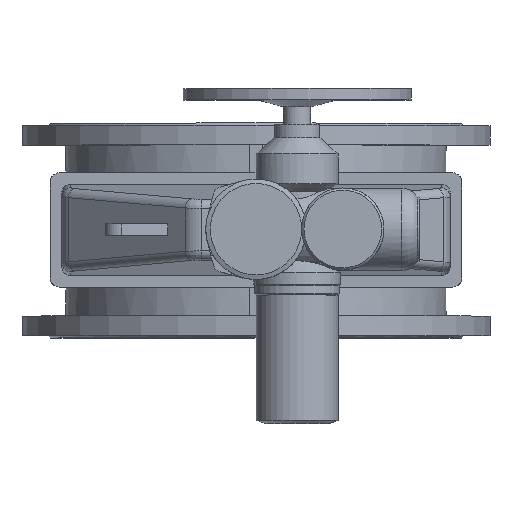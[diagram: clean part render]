
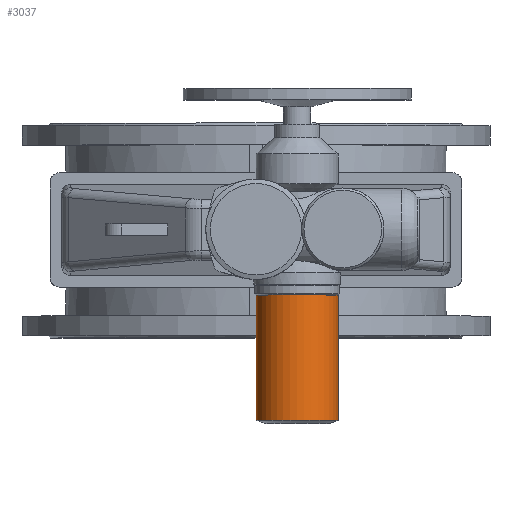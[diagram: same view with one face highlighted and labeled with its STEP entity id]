
A CAD part, top view. The second image highlights one B-rep face of the part: STEP entity #3037.
In plain terms, the highlighted cylindrical face has radius 90 mm (diameter 180 mm), a full revolution.
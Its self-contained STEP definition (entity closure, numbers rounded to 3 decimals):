
#3037=ADVANCED_FACE('',(#8015,#8017),#8019,.T.);
#8015=FACE_OUTER_BOUND('',#8016,.T.);
#8016=EDGE_LOOP('',(#9679));
#8017=FACE_OUTER_BOUND('',#8018,.T.);
#8018=EDGE_LOOP('',(#9680));
#8019=CYLINDRICAL_SURFACE('',#8020,90.);
#8020=AXIS2_PLACEMENT_3D('',#8021,#8022,#8023);
#8021=CARTESIAN_POINT('',(90.,-417.721,1724.));
#8022=DIRECTION('',(0.,1.,0.));
#8023=DIRECTION('',(0.,0.,1.));
#9679=ORIENTED_EDGE('',*,*,#10503,.F.);
#9680=ORIENTED_EDGE('',*,*,#10504,.T.);
#10503=EDGE_CURVE('',#11889,#11889,#11890,.T.);
#10504=EDGE_CURVE('',#11891,#11891,#11892,.T.);
#11889=VERTEX_POINT('',#16792);
#11890=CIRCLE('',#16793,90.);
#11891=VERTEX_POINT('',#16797);
#11892=CIRCLE('',#16798,90.);
#16792=CARTESIAN_POINT('',(90.,-143.811,1814.));
#16793=AXIS2_PLACEMENT_3D('',#16794,#16795,#16796);
#16794=CARTESIAN_POINT('',(90.,-143.811,1724.));
#16795=DIRECTION('',(0.,1.,0.));
#16796=DIRECTION('',(0.,0.,1.));
#16797=CARTESIAN_POINT('',(90.,-417.721,1814.));
#16798=AXIS2_PLACEMENT_3D('',#16799,#16800,#16801);
#16799=CARTESIAN_POINT('',(90.,-417.721,1724.));
#16800=DIRECTION('',(0.,1.,0.));
#16801=DIRECTION('',(0.,0.,1.));
